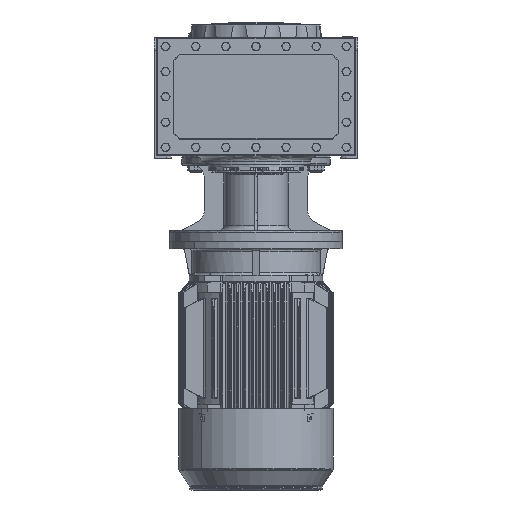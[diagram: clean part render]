
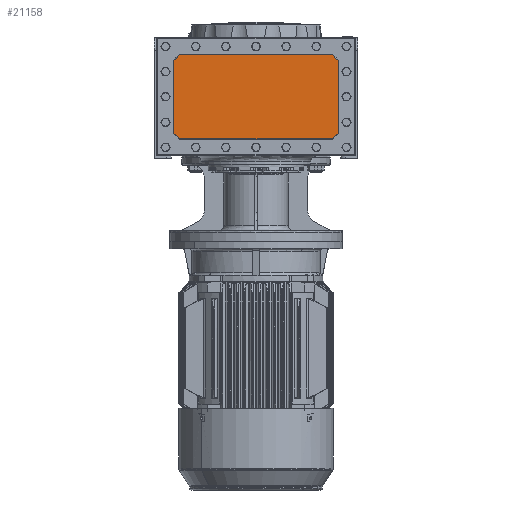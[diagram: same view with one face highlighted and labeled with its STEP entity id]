
A CAD part, front view. The second image highlights one B-rep face of the part: STEP entity #21158.
In plain terms, the highlighted planar face has unit normal (0, -1, 0).
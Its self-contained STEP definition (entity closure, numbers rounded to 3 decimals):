
#474 = EDGE_CURVE ( 'NONE', #65810, #65790, #37930, .T. ) ;
#477 = EDGE_CURVE ( 'NONE', #65801, #65770, #37885, .T. ) ;
#504 = EDGE_CURVE ( 'NONE', #65798, #65801, #37956, .T. ) ;
#505 = EDGE_CURVE ( 'NONE', #65790, #65798, #37968, .T. ) ;
#514 = EDGE_CURVE ( 'NONE', #65823, #65810, #38021, .T. ) ;
#529 = EDGE_CURVE ( 'NONE', #65871, #65802, #37946, .T. ) ;
#564 = EDGE_CURVE ( 'NONE', #65802, #65823, #38088, .T. ) ;
#577 = EDGE_CURVE ( 'NONE', #65770, #65871, #38134, .T. ) ;
#18164 = CARTESIAN_POINT ( 'NONE',  ( -154.612, -169.5, 208.562 ) ) ;
#18177 = CARTESIAN_POINT ( 'NONE',  ( -166.062, -169.5, 49.888 ) ) ;
#18209 = CARTESIAN_POINT ( 'NONE',  ( 166.062, -169.5, 49.888 ) ) ;
#18228 = CARTESIAN_POINT ( 'NONE',  ( -154.612, -169.5, 38.438 ) ) ;
#18229 = CARTESIAN_POINT ( 'NONE',  ( 154.612, -169.5, 38.438 ) ) ;
#18239 = CARTESIAN_POINT ( 'NONE',  ( 166.062, -169.5, 197.112 ) ) ;
#18240 = CARTESIAN_POINT ( 'NONE',  ( -166.062, -169.5, 197.112 ) ) ;
#18244 = CARTESIAN_POINT ( 'NONE',  ( 154.612, -169.5, 208.562 ) ) ;
#21158 = ADVANCED_FACE ( 'NONE', ( #112079 ), #125561, .F. ) ;
#37835 = VECTOR ( 'NONE', #116929, 1000. ) ;
#37885 = LINE ( 'NONE', #116957, #37932 ) ;
#37930 = LINE ( 'NONE', #116951, #37835 ) ;
#37932 = VECTOR ( 'NONE', #116976, 1000. ) ;
#37946 = LINE ( 'NONE', #117485, #37948 ) ;
#37948 = VECTOR ( 'NONE', #116653, 1000. ) ;
#37956 = LINE ( 'NONE', #117285, #38008 ) ;
#37958 = VECTOR ( 'NONE', #117394, 1000. ) ;
#37968 = LINE ( 'NONE', #117255, #38006 ) ;
#38006 = VECTOR ( 'NONE', #117240, 1000. ) ;
#38008 = VECTOR ( 'NONE', #117305, 1000. ) ;
#38021 = LINE ( 'NONE', #117415, #37958 ) ;
#38088 = LINE ( 'NONE', #87410, #38147 ) ;
#38134 = LINE ( 'NONE', #87498, #38178 ) ;
#38147 = VECTOR ( 'NONE', #87452, 1000. ) ;
#38178 = VECTOR ( 'NONE', #87561, 1000. ) ;
#65770 = VERTEX_POINT ( 'NONE', #18164 ) ;
#65790 = VERTEX_POINT ( 'NONE', #18228 ) ;
#65798 = VERTEX_POINT ( 'NONE', #18177 ) ;
#65801 = VERTEX_POINT ( 'NONE', #18240 ) ;
#65802 = VERTEX_POINT ( 'NONE', #18239 ) ;
#65810 = VERTEX_POINT ( 'NONE', #18229 ) ;
#65823 = VERTEX_POINT ( 'NONE', #18209 ) ;
#65871 = VERTEX_POINT ( 'NONE', #18244 ) ;
#87410 = CARTESIAN_POINT ( 'NONE',  ( 166.062, -169.5, 197.5 ) ) ;
#87452 = DIRECTION ( 'NONE',  ( 0., 0., -1. ) ) ;
#87498 = CARTESIAN_POINT ( 'NONE',  ( -155., -169.5, 208.562 ) ) ;
#87561 = DIRECTION ( 'NONE',  ( 1., 0., 0. ) ) ;
#105896 = ORIENTED_EDGE ( 'NONE', *, *, #505, .F. ) ;
#105918 = ORIENTED_EDGE ( 'NONE', *, *, #529, .F. ) ;
#105979 = ORIENTED_EDGE ( 'NONE', *, *, #514, .F. ) ;
#106007 = ORIENTED_EDGE ( 'NONE', *, *, #504, .F. ) ;
#106096 = ORIENTED_EDGE ( 'NONE', *, *, #477, .F. ) ;
#106098 = ORIENTED_EDGE ( 'NONE', *, *, #577, .F. ) ;
#106107 = ORIENTED_EDGE ( 'NONE', *, *, #474, .F. ) ;
#106119 = ORIENTED_EDGE ( 'NONE', *, *, #564, .F. ) ;
#112079 = FACE_OUTER_BOUND ( 'NONE', #124850, .T. ) ;
#112418 = AXIS2_PLACEMENT_3D ( 'NONE', #125705, #125660, #125791 ) ;
#116653 = DIRECTION ( 'NONE',  ( 0.707, 0., -0.707 ) ) ;
#116929 = DIRECTION ( 'NONE',  ( -1., 0., 0. ) ) ;
#116951 = CARTESIAN_POINT ( 'NONE',  ( -155., -169.5, 38.438 ) ) ;
#116957 = CARTESIAN_POINT ( 'NONE',  ( -154.337, -169.5, 208.837 ) ) ;
#116976 = DIRECTION ( 'NONE',  ( 0.707, 0., 0.707 ) ) ;
#117240 = DIRECTION ( 'NONE',  ( -0.707, 0., 0.707 ) ) ;
#117255 = CARTESIAN_POINT ( 'NONE',  ( -166.337, -169.5, 50.163 ) ) ;
#117285 = CARTESIAN_POINT ( 'NONE',  ( -166.062, -169.5, 197.5 ) ) ;
#117305 = DIRECTION ( 'NONE',  ( 0., 0., 1. ) ) ;
#117394 = DIRECTION ( 'NONE',  ( -0.707, 0., -0.707 ) ) ;
#117415 = CARTESIAN_POINT ( 'NONE',  ( 166.337, -169.5, 50.163 ) ) ;
#117485 = CARTESIAN_POINT ( 'NONE',  ( 154.337, -169.5, 208.837 ) ) ;
#124850 = EDGE_LOOP ( 'NONE', ( #106007, #105896, #106107, #105979, #106119, #105918, #106098, #106096 ) ) ;
#125561 = PLANE ( 'NONE',  #112418 ) ;
#125660 = DIRECTION ( 'NONE',  ( 0., 1., 0. ) ) ;
#125705 = CARTESIAN_POINT ( 'NONE',  ( 194., -169.5, 9. ) ) ;
#125791 = DIRECTION ( 'NONE',  ( 0., 0., 1. ) ) ;
